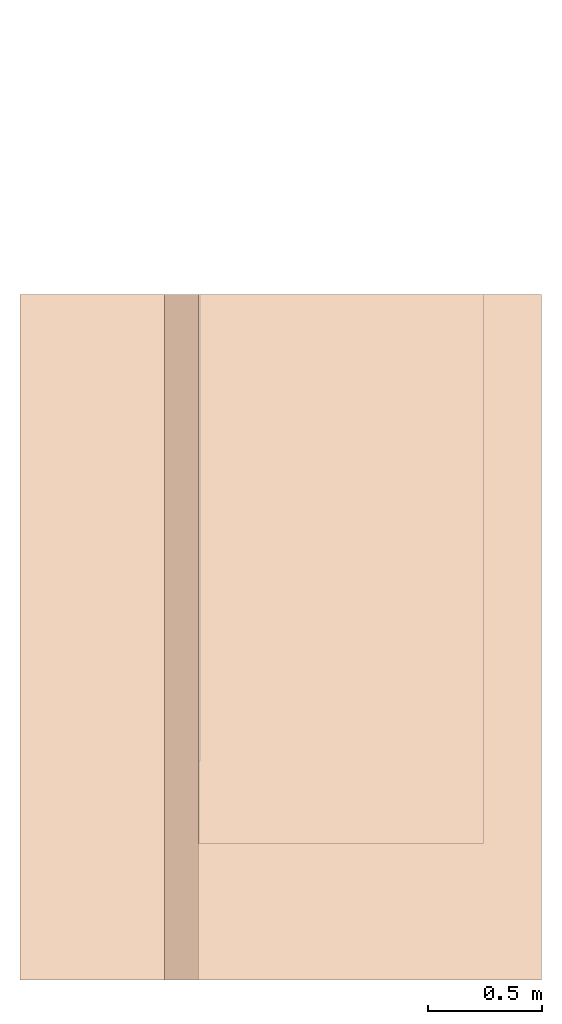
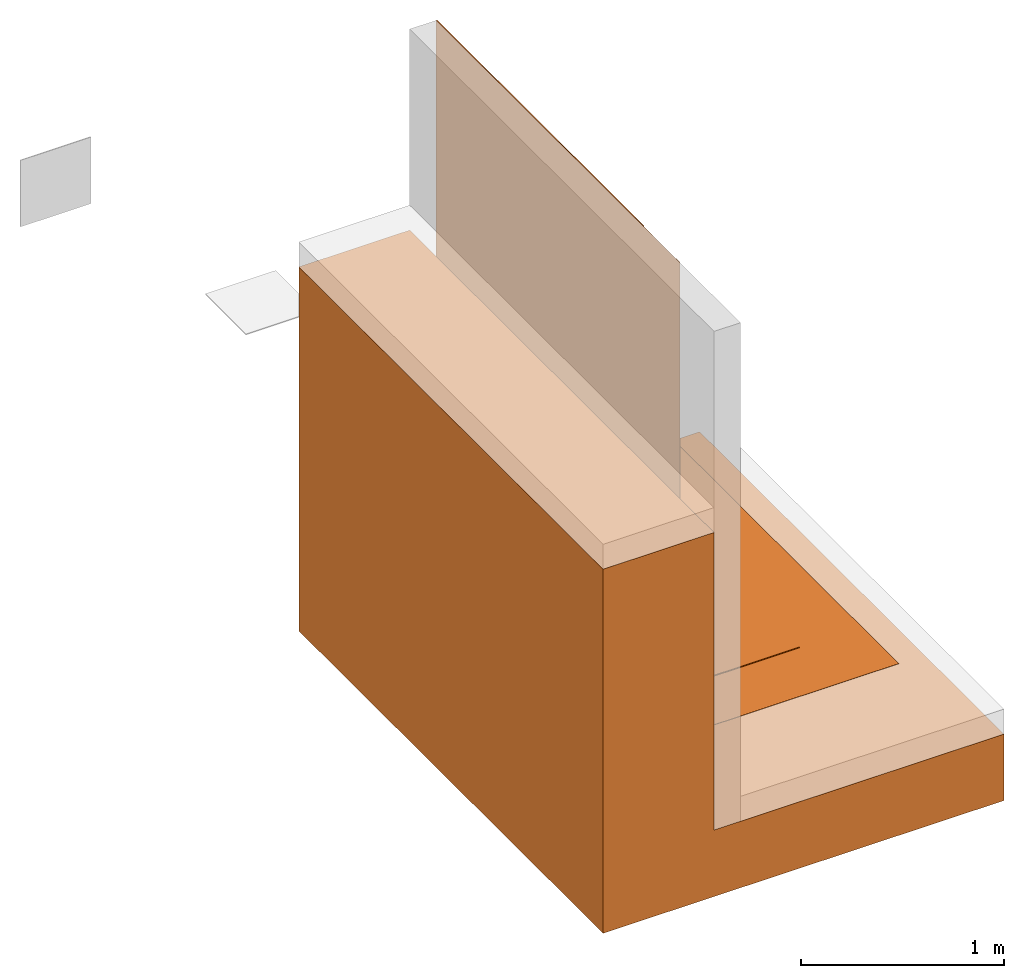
# One storey, part 2 of 2: 1 proxy.
"""IFC2X3 building model written with IfcOpenShell, lengths in metres."""

import ifcopenshell
import ifcopenshell.guid

model = None  # the IFC model being written
_history = None  # IfcOwnerHistory: only IFC2X3 demands one
_inside = {}  # id of a spatial element -> (the spatial element, [elements in it])
_under = {}  # id of a project, library or spatial element -> (it, [spatial elements below it])
_declared = {}  # id of a project -> (the project, [libraries it declares])
_typed = {}  # id of a type object -> (the type object, [elements of that type])
_made_of = {}  # id of a material, layer set ... -> (it, [elements and type objects made of it])


def new_model(schema):
    """Start an empty IFC model of exactly this schema.

    Asked for "IFC4X3", IfcOpenShell would pick the latest addendum, in which some entities
    have other attributes; the version numbers below select the first issue.
    IFC2X3 requires an IfcOwnerHistory on every rooted entity: one is made here for all.
    """
    global model, _history
    if schema == "IFC4X3":
        model = ifcopenshell.file(schema_version=(4, 3, 0, 0))
    else:
        model = ifcopenshell.file(schema=schema)
    _inside.clear()
    _under.clear()
    _declared.clear()
    _typed.clear()
    _made_of.clear()
    _history = None
    if model.schema == "IFC2X3":
        org = make("IfcOrganization", Name="unknown")
        user = make(
            "IfcPersonAndOrganization",
            ThePerson=make("IfcPerson", FamilyName="unknown"),
            TheOrganization=org,
        )
        app = make(
            "IfcApplication",
            ApplicationDeveloper=org,
            Version="unknown",
            ApplicationFullName="unknown",
            ApplicationIdentifier="unknown",
        )
        _history = make(
            "IfcOwnerHistory",
            OwningUser=user,
            OwningApplication=app,
            ChangeAction="ADDED",
            CreationDate=0,
        )
    return model


def make(cls, **values):
    """One entity of the class cls with the attributes given. An attribute that is None is left unset."""
    return model.create_entity(
        cls, **{name: value for name, value in values.items() if value is not None}
    )


def entity(cls, *values):
    """Any entity or typed value of the class cls, its attributes in the order of the schema. None: left unset."""
    e = model.create_entity(cls)
    for i, value in enumerate(values):
        if value is not None:
            e[i] = value
    return e


def rooted(cls, **values):
    """An entity with a GlobalId (a new one), such as an element, a storey or a relation."""
    return make(cls, GlobalId=ifcopenshell.guid.new(), OwnerHistory=_history, **values)


def si_unit(unit_type, name, prefix=None):
    """IfcSIUnit, for example si_unit("LENGTHUNIT", "METRE", prefix="MILLI")."""
    return make("IfcSIUnit", UnitType=unit_type, Prefix=prefix, Name=name)


def converted_unit(unit_type, name, factor, base, dimensions=None, offset=None):
    """IfcConversionBasedUnit, such as the inch: factor (a typed value) times the base unit."""
    return make(
        "IfcConversionBasedUnit"
        if offset is None
        else "IfcConversionBasedUnitWithOffset",
        ConversionOffset=offset,
        Dimensions=None
        if dimensions is None
        else entity("IfcDimensionalExponents", *dimensions),
        UnitType=unit_type,
        Name=name,
        ConversionFactor=make(
            "IfcMeasureWithUnit", ValueComponent=factor, UnitComponent=base
        ),
    )


def derived_unit(unit_type, elements):
    """IfcDerivedUnit: a product of units, each with its exponent."""
    return make(
        "IfcDerivedUnit",
        Elements=[
            make("IfcDerivedUnitElement", Unit=unit, Exponent=power)
            for unit, power in elements
        ],
        UnitType=unit_type,
    )


def assignment(units):
    """IfcUnitAssignment: the units of a project."""
    return None if units is None else make("IfcUnitAssignment", Units=units)


def point(xyz):
    """IfcCartesianPoint."""
    return None if xyz is None else make("IfcCartesianPoint", Coordinates=xyz)


def direction(xyz):
    """IfcDirection."""
    return None if xyz is None else make("IfcDirection", DirectionRatios=xyz)


def frame(location, z_axis=None, x_axis=None):
    """IfcAxis2Placement3D, a coordinate frame: its origin and axes. An axis left out is left unset."""
    return make(
        "IfcAxis2Placement3D",
        Location=point(location),
        Axis=direction(z_axis),
        RefDirection=direction(x_axis),
    )


def origin():
    """The frame at (0, 0, 0) with its axes left unset."""
    return frame((0.0, 0.0, 0.0))


def place(relative_to, where):
    """IfcLocalPlacement: puts the frame where relative to a parent placement (None: the world)."""
    return make(
        "IfcLocalPlacement", PlacementRelTo=relative_to, RelativePlacement=where
    )


def context(
    kind, dimensions, precision=None, world=None, true_north=None, identifier=None
):
    """IfcGeometricRepresentationContext, for example the 3D "Model" context."""
    return make(
        "IfcGeometricRepresentationContext",
        ContextIdentifier=identifier,
        ContextType=kind,
        CoordinateSpaceDimension=dimensions,
        Precision=precision,
        WorldCoordinateSystem=world,
        TrueNorth=true_north,
    )


def subcontext(parent, identifier, kind, view, scale=None):
    """IfcGeometricRepresentationSubContext, for example "Body" below "Model"."""
    return make(
        "IfcGeometricRepresentationSubContext",
        ContextIdentifier=identifier,
        ContextType=kind,
        ParentContext=parent,
        TargetScale=scale,
        TargetView=view,
    )


def project(units=None, contexts=None):
    """IfcProject with its units and contexts."""
    return rooted(
        "IfcProject",
        Name="project",
        RepresentationContexts=contexts,
        UnitsInContext=assignment(units),
    )


def spatial(cls, under=None, at=None, **own):
    """A site, building, storey or space (cls), placed at a placement, below another one or the project."""
    s = rooted(cls, ObjectPlacement=at, **own)
    if under is not None:
        _under.setdefault(under.id(), (under, []))[1].append(s)
    return s


def polyline(points):
    """IfcPolyline through the points."""
    return make("IfcPolyline", Points=[point(p) for p in points])


def outline(outer, holes=None, kind="AREA"):
    """IfcArbitraryClosedProfileDef: a profile drawn as a closed curve; with holes, ...WithVoids."""
    if holes is None:
        return make("IfcArbitraryClosedProfileDef", ProfileType=kind, OuterCurve=outer)
    return make(
        "IfcArbitraryProfileDefWithVoids",
        ProfileType=kind,
        OuterCurve=outer,
        InnerCurves=holes,
    )


def extrude(swept, where, along, depth):
    """IfcExtrudedAreaSolid: the profile swept, set in the frame where, extruded along a direction by depth."""
    return make(
        "IfcExtrudedAreaSolid",
        SweptArea=swept,
        Position=where,
        ExtrudedDirection=direction(along),
        Depth=depth,
    )


def shape(context_of_items, identifier, shape_type, items):
    """IfcShapeRepresentation: the items that make up one representation, for example the "Body"."""
    return make(
        "IfcShapeRepresentation",
        ContextOfItems=context_of_items,
        RepresentationIdentifier=identifier,
        RepresentationType=shape_type,
        Items=items,
    )


def source(mapping_origin, context_of_items, identifier, shape_type, items):
    """IfcRepresentationMap: a shape defined once, which mapped items show again and again."""
    return make(
        "IfcRepresentationMap",
        MappingOrigin=mapping_origin,
        MappedRepresentation=shape(context_of_items, identifier, shape_type, items),
    )


def transform(
    local_origin,
    x_axis=None,
    y_axis=None,
    z_axis=None,
    scale=None,
    scale2=None,
    scale3=None,
    uniform=True,
):
    """IfcCartesianTransformationOperator3D, or its non-uniform kind. x_axis, y_axis, z_axis: its Axis1, 2, 3."""
    if uniform:
        return make(
            "IfcCartesianTransformationOperator3D",
            Axis1=direction(x_axis),
            Axis2=direction(y_axis),
            LocalOrigin=point(local_origin),
            Scale=scale,
            Axis3=direction(z_axis),
        )
    return make(
        "IfcCartesianTransformationOperator3DnonUniform",
        Axis1=direction(x_axis),
        Axis2=direction(y_axis),
        LocalOrigin=point(local_origin),
        Scale=scale,
        Axis3=direction(z_axis),
        Scale2=scale2,
        Scale3=scale3,
    )


def mapped(mapping_source, mapping_target):
    """IfcMappedItem: shows the shape of a source again, moved by a transform."""
    return make(
        "IfcMappedItem", MappingSource=mapping_source, MappingTarget=mapping_target
    )


def material(Name=None, Category=None):
    """IfcMaterial."""
    return make("IfcMaterial", Name=Name, Category=Category)


def material_list(materials):
    """IfcMaterialList."""
    return make("IfcMaterialList", Materials=materials)


def made_of(thing, what):
    """Note that an element or type object is made of a material, layer set ...; save() writes the relation."""
    if what is not None:
        _made_of.setdefault(what.id(), (what, []))[1].append(thing)
    return thing


def type_object(cls, material=None, **own):
    """A type object (cls), such as IfcWallType, which elements share."""
    return made_of(rooted(cls, **own), material)


def type_shapes(of_type, sources):
    """Give a type object the sources (RepresentationMaps) that its elements show as mapped items."""
    of_type.RepresentationMaps = sources


def element(
    cls,
    number,
    at=None,
    inside=None,
    cuts=None,
    type_object=None,
    material=None,
    context=None,
    identifier="Body",
    shape_type=None,
    held_by="IfcProductDefinitionShape",
    body=None,
    shapes=None,
    **own,
):
    """One element of the class cls, such as IfcWall. Its Tag is "e" and its number.

    at: its placement. inside: the storey or other place that contains it. cuts: it is an
    opening in that element (IfcRelVoidsElement). A single representation is given by context,
    identifier, shape_type and body (its items); several are given by shapes. held_by: the class
    of the entity that holds the representations. save() writes the other relations.
    """
    e = rooted(cls, Tag="e%d" % number, ObjectPlacement=at, **own)
    if body is not None:
        shapes = [shape(context, identifier, shape_type, body)]
    if shapes is not None:
        e.Representation = make(held_by, Representations=shapes)
    if inside is not None:
        _inside.setdefault(inside.id(), (inside, []))[1].append(e)
    if cuts is not None:
        rooted(
            "IfcRelVoidsElement", RelatingBuildingElement=cuts, RelatedOpeningElement=e
        )
    if type_object is not None:
        _typed.setdefault(type_object.id(), (type_object, []))[1].append(e)
    return made_of(e, material)


def aggregate(whole, parts):
    """IfcRelAggregates: a whole, such as a stair, and the parts it consists of."""
    return rooted("IfcRelAggregates", RelatingObject=whole, RelatedObjects=parts)


def save(model, path):
    """Write the relations noted so far, then the file.

    IfcRelAggregates (storeys below a building ...), IfcRelContainedInSpatialStructure (elements
    in a storey), IfcRelDefinesByType, IfcRelAssociatesMaterial and IfcRelDeclares: one each for
    every whole, place, type object, material and project.
    """
    for whole, parts in _under.values():
        aggregate(whole, parts)
    for where, things in _inside.values():
        rooted(
            "IfcRelContainedInSpatialStructure",
            RelatedElements=things,
            RelatingStructure=where,
        )
    for kind, things in _typed.values():
        rooted("IfcRelDefinesByType", RelatedObjects=things, RelatingType=kind)
    for what, things in _made_of.values():
        rooted("IfcRelAssociatesMaterial", RelatedObjects=things, RelatingMaterial=what)
    for by, libraries in _declared.values():
        rooted("IfcRelDeclares", RelatingContext=by, RelatedDefinitions=libraries)
    model.write(path)


model = new_model("IFC2X3")

# Units and contexts
model_context = context("Model", 3, precision=1e-05, world=origin(), true_north=direction((6.123031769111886e-17, 1.0)))
body_context = subcontext(model_context, "Body", "Model", "MODEL_VIEW")
ifc_project = project(units=[si_unit("LENGTHUNIT", "METRE"), si_unit("AREAUNIT", "SQUARE_METRE"), si_unit("VOLUMEUNIT", "CUBIC_METRE"), converted_unit("PLANEANGLEUNIT", "DEGREE", entity("IfcRatioMeasure", 0.017453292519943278), si_unit("PLANEANGLEUNIT", "RADIAN"), dimensions=[0, 0, 0, 0, 0, 0, 0]), si_unit("MASSUNIT", "GRAM", prefix="KILO"), derived_unit("MASSDENSITYUNIT", [(si_unit("MASSUNIT", "GRAM", prefix="KILO"), 1), (si_unit("LENGTHUNIT", "METRE"), -3)]), derived_unit("IONCONCENTRATIONUNIT", [(si_unit("MASSUNIT", "GRAM", prefix="KILO"), 1), (si_unit("LENGTHUNIT", "METRE"), -3)]), derived_unit("MOMENTOFINERTIAUNIT", [(si_unit("LENGTHUNIT", "METRE"), 4)]), si_unit("TIMEUNIT", "SECOND"), si_unit("FREQUENCYUNIT", "HERTZ"), si_unit("THERMODYNAMICTEMPERATUREUNIT", "DEGREE_CELSIUS"), derived_unit("THERMALTRANSMITTANCEUNIT", [(si_unit("MASSUNIT", "GRAM", prefix="KILO"), 1), (si_unit("THERMODYNAMICTEMPERATUREUNIT", "KELVIN"), -1), (si_unit("TIMEUNIT", "SECOND"), -3)]), derived_unit("THERMALCONDUCTANCEUNIT", [(si_unit("MASSUNIT", "GRAM", prefix="KILO"), 1), (si_unit("THERMODYNAMICTEMPERATUREUNIT", "KELVIN"), -1), (si_unit("TIMEUNIT", "SECOND"), -3), (si_unit("LENGTHUNIT", "METRE"), 1)]), derived_unit("VOLUMETRICFLOWRATEUNIT", [(si_unit("LENGTHUNIT", "METRE"), 3), (si_unit("TIMEUNIT", "SECOND"), -1)]), derived_unit("MASSFLOWRATEUNIT", [(si_unit("MASSUNIT", "GRAM", prefix="KILO"), 1), (si_unit("TIMEUNIT", "SECOND"), -1)]), derived_unit("ROTATIONALFREQUENCYUNIT", [(si_unit("TIMEUNIT", "SECOND"), -1)]), si_unit("ELECTRICCURRENTUNIT", "AMPERE"), si_unit("ELECTRICVOLTAGEUNIT", "VOLT"), si_unit("POWERUNIT", "WATT"), si_unit("FORCEUNIT", "NEWTON", prefix="KILO"), si_unit("ILLUMINANCEUNIT", "LUX"), si_unit("LUMINOUSFLUXUNIT", "LUMEN"), si_unit("LUMINOUSINTENSITYUNIT", "CANDELA"), derived_unit("USERDEFINED", [(si_unit("MASSUNIT", "GRAM", prefix="KILO"), -1), (si_unit("LENGTHUNIT", "METRE"), -2), (si_unit("TIMEUNIT", "SECOND"), 3), (si_unit("LUMINOUSFLUXUNIT", "LUMEN"), 1)]), derived_unit("USERDEFINED", [(si_unit("MASSUNIT", "GRAM", prefix="KILO"), 1), (si_unit("TIMEUNIT", "SECOND"), -3), (si_unit("LENGTHUNIT", "METRE"), 3), (si_unit("ELECTRICCURRENTUNIT", "AMPERE"), -2)]), derived_unit("SOUNDPOWERUNIT", [(si_unit("MASSUNIT", "GRAM", prefix="KILO"), 1), (si_unit("TIMEUNIT", "SECOND"), -3), (si_unit("LENGTHUNIT", "METRE"), 2)]), derived_unit("SOUNDPRESSUREUNIT", [(si_unit("MASSUNIT", "GRAM", prefix="KILO"), 1), (si_unit("LENGTHUNIT", "METRE"), -1), (si_unit("TIMEUNIT", "SECOND"), -2)]), derived_unit("LINEARVELOCITYUNIT", [(si_unit("LENGTHUNIT", "METRE"), 1), (si_unit("TIMEUNIT", "SECOND"), -1)]), si_unit("PRESSUREUNIT", "PASCAL"), derived_unit("USERDEFINED", [(si_unit("MASSUNIT", "GRAM", prefix="KILO"), 1), (si_unit("LENGTHUNIT", "METRE"), -2), (si_unit("TIMEUNIT", "SECOND"), -2)]), derived_unit("LINEARFORCEUNIT", [(si_unit("MASSUNIT", "GRAM", prefix="KILO"), 1), (si_unit("TIMEUNIT", "SECOND"), -2)]), derived_unit("PLANARFORCEUNIT", [(si_unit("MASSUNIT", "GRAM", prefix="KILO"), 1), (si_unit("LENGTHUNIT", "METRE"), -1), (si_unit("TIMEUNIT", "SECOND"), -2)]), derived_unit("SPECIFICHEATCAPACITYUNIT", [(si_unit("THERMODYNAMICTEMPERATUREUNIT", "KELVIN"), -1), (si_unit("LENGTHUNIT", "METRE"), 2), (si_unit("TIMEUNIT", "SECOND"), -2)]), derived_unit("HEATINGVALUEUNIT", [(si_unit("LENGTHUNIT", "METRE"), 2), (si_unit("TIMEUNIT", "SECOND"), -2)]), derived_unit("VAPORPERMEABILITYUNIT", [(si_unit("LENGTHUNIT", "METRE"), -1), (si_unit("TIMEUNIT", "SECOND"), 1)]), derived_unit("DYNAMICVISCOSITYUNIT", [(si_unit("MASSUNIT", "GRAM", prefix="KILO"), 1), (si_unit("TIMEUNIT", "SECOND"), -1), (si_unit("LENGTHUNIT", "METRE"), -1)]), derived_unit("THERMALEXPANSIONCOEFFICIENTUNIT", [(si_unit("THERMODYNAMICTEMPERATUREUNIT", "KELVIN"), -1)]), derived_unit("MODULUSOFELASTICITYUNIT", [(si_unit("MASSUNIT", "GRAM", prefix="KILO"), 1), (si_unit("LENGTHUNIT", "METRE"), -1), (si_unit("TIMEUNIT", "SECOND"), -2)]), derived_unit("ISOTHERMALMOISTURECAPACITYUNIT", [(si_unit("LENGTHUNIT", "METRE"), 3), (si_unit("MASSUNIT", "GRAM", prefix="KILO"), -1)]), derived_unit("MOISTUREDIFFUSIVITYUNIT", [(si_unit("TIMEUNIT", "SECOND"), -1), (si_unit("LENGTHUNIT", "METRE"), 2)])], contexts=[model_context])

# Site, building, storey
site_placement = place(None, origin())
site = spatial("IfcSite", under=ifc_project, at=site_placement, Name="Default", CompositionType="ELEMENT")
building_placement = place(site_placement, origin())
building = spatial("IfcBuilding", under=site, at=building_placement, CompositionType="ELEMENT")
storey_placement = place(building_placement, frame((0.0, 0.0, -0.0025237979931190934)))
storey = spatial("IfcBuildingStorey", under=building, at=storey_placement, Name="ARQ Térreo", CompositionType="ELEMENT", Elevation=-0.0025237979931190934)

# Proxy
ifc_material_1 = material(Name="#Chapisco")
ifc_material_2 = material(Name="#VANDEX SUPER")
ifc_material_3 = material(Name="#solo")
ifc_material_list = material_list([ifc_material_1, ifc_material_2, ifc_material_3])
building_element_proxy_type = type_object("IfcBuildingElementProxyType", Name="IMPER:IMPER", PredefinedType="NOTDEFINED", material=ifc_material_list)
shared_shape = source(origin(), body_context, "Body", "SweptSolid", [
    extrude(outline(polyline([(-0.9513333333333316, -0.29775466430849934), (1.897666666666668, -0.29775466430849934), (1.897666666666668, -0.29275466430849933), (-0.9463333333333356, -0.2927546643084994), (-0.9463333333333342, 0.5905093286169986), (-0.9513333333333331, 0.5905093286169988), (-0.9513333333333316, -0.29775466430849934)])), frame((-0.05321574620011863, -1.8951970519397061, 1.0998095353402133), z_axis=(0.0, 1.0, 0.0), x_axis=(0.0, 0.0, 1.0)), (0.0, 0.0, 1.0), 2.0410670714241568),
    extrude(outline(polyline([(-0.9503333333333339, -0.41579665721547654), (1.8996666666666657, -0.41579665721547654), (1.8996666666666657, -0.4147966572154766), (-0.9493333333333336, -0.4147966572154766), (-0.9493333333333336, 0.8305933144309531), (-0.95033333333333, 0.8305933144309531), (-0.9503333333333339, -0.41579665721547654)])), frame((0.06382624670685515, -2.2573298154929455, 1.0978095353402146), z_axis=(0.0, 1.0, 0.0), x_axis=(0.0, 0.0, 1.0)), (0.0, 0.0, 1.0), 2.403199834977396),
    extrude(outline(polyline([(-0.7972769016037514, -0.8320581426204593), (-0.39727690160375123, -0.8320581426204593), (1.3931922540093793, -0.8320581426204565), (1.393192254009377, -0.2009563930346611), (-0.397276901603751, -0.20095639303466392), (-0.39727690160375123, 1.4490436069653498), (-0.7972769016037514, 1.4490436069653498), (-0.7972769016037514, -0.8320581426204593)])), frame((-0.3010140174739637, -2.854129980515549, 0.39475310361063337), z_axis=(0.0, 1.0, 0.0), x_axis=(0.0, 0.0, 1.0)), (0.0, 0.0, 1.0), 3.0000000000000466),
])
type_shapes(building_element_proxy_type, [shared_shape])
proxy_placement = place(storey_placement, frame((0.0, 0.0, 0.0025237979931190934)))
element("IfcBuildingElementProxy", 1, at=proxy_placement, inside=storey, type_object=building_element_proxy_type, material=ifc_material_list, Name="IMPER:IMPER:IMPER : IMPER:IMPER", ObjectType="IMPER:IMPER:IMPER : IMPER:IMPER", context=body_context, shape_type="MappedRepresentation", body=[
    mapped(shared_shape, transform((0.0, 0.0, 0.0), scale=1.0)),
])

save(model, "model.ifc")
